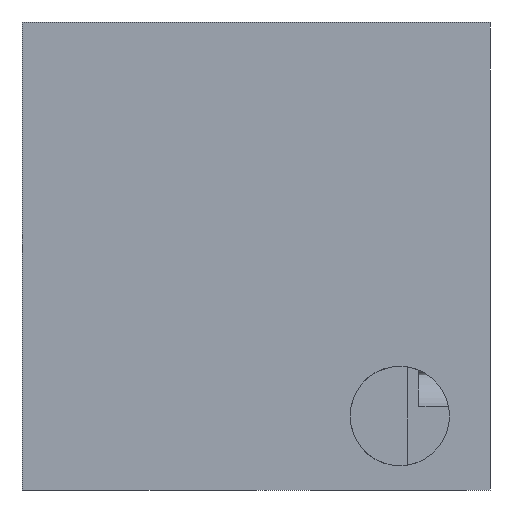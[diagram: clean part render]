
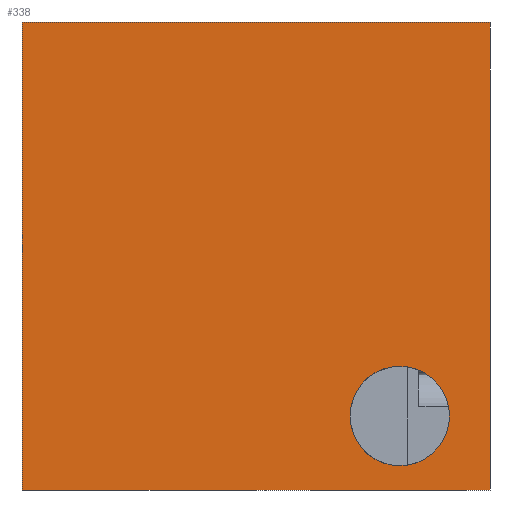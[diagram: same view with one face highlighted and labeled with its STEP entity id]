
A CAD part, left-side view. The second image highlights one B-rep face of the part: STEP entity #338.
In plain terms, the highlighted planar face has unit normal (-1, 0, 0).
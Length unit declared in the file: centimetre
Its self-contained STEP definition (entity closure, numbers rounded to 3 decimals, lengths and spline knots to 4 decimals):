
#22 = CARTESIAN_POINT ( 'NONE',  ( 0., 0., 0. ) ) ;
#44 = FACE_OUTER_BOUND ( 'NONE', #464, .T. ) ;
#58 = LINE ( 'NONE', #451, #248 ) ;
#70 = ORIENTED_EDGE ( 'NONE', *, *, #797, .F. ) ;
#90 = EDGE_CURVE ( 'NONE', #1046, #109, #330, .T. ) ;
#109 = VERTEX_POINT ( 'NONE', #1206 ) ;
#167 = LINE ( 'NONE', #1333, #605 ) ;
#198 = ORIENTED_EDGE ( 'NONE', *, *, #1622, .F. ) ;
#220 = VERTEX_POINT ( 'NONE', #865 ) ;
#248 = VECTOR ( 'NONE', #1460, 100. ) ;
#263 = LINE ( 'NONE', #507, #1648 ) ;
#300 = VERTEX_POINT ( 'NONE', #22 ) ;
#302 = AXIS2_PLACEMENT_3D ( 'NONE', #1080, #453, #1590 ) ;
#330 = CIRCLE ( 'NONE', #302, 106.2472 ) ;
#338 = ADVANCED_FACE ( 'NONE', ( #1543, #44 ), #883, .F. ) ;
#379 = EDGE_CURVE ( 'NONE', #934, #1465, #167, .T. ) ;
#408 = DIRECTION ( 'NONE',  ( 1., 0., 0. ) ) ;
#423 = DIRECTION ( 'NONE',  ( 0., 0., -1. ) ) ;
#432 = CARTESIAN_POINT ( 'NONE',  ( 0., 192.7582, 158.1298 ) ) ;
#451 = CARTESIAN_POINT ( 'NONE',  ( 0., 0., 1000. ) ) ;
#453 = DIRECTION ( 'NONE',  ( -1., 0., 0. ) ) ;
#464 = EDGE_LOOP ( 'NONE', ( #999, #703, #70, #1286 ) ) ;
#507 = CARTESIAN_POINT ( 'NONE',  ( 0., 1000., 0. ) ) ;
#605 = VECTOR ( 'NONE', #423, 100. ) ;
#630 = LINE ( 'NONE', #1281, #1165 ) ;
#648 = EDGE_LOOP ( 'NONE', ( #1380, #198 ) ) ;
#703 = ORIENTED_EDGE ( 'NONE', *, *, #1561, .F. ) ;
#793 = CARTESIAN_POINT ( 'NONE',  ( 0., 1000., 0. ) ) ;
#797 = EDGE_CURVE ( 'NONE', #934, #220, #630, .T. ) ;
#865 = CARTESIAN_POINT ( 'NONE',  ( 0., 0., 1000. ) ) ;
#876 = AXIS2_PLACEMENT_3D ( 'NONE', #432, #1332, #1203 ) ;
#879 = CIRCLE ( 'NONE', #876, 106.2472 ) ;
#883 = PLANE ( 'NONE',  #1002 ) ;
#918 = DIRECTION ( 'NONE',  ( 0., 0., -1. ) ) ;
#934 = VERTEX_POINT ( 'NONE', #1047 ) ;
#999 = ORIENTED_EDGE ( 'NONE', *, *, #1282, .T. ) ;
#1002 = AXIS2_PLACEMENT_3D ( 'NONE', #1554, #408, #918 ) ;
#1046 = VERTEX_POINT ( 'NONE', #1463 ) ;
#1047 = CARTESIAN_POINT ( 'NONE',  ( 0., 1000., 1000. ) ) ;
#1080 = CARTESIAN_POINT ( 'NONE',  ( 0., 192.7582, 158.1298 ) ) ;
#1165 = VECTOR ( 'NONE', #1276, 100. ) ;
#1203 = DIRECTION ( 'NONE',  ( 0., 0., 1. ) ) ;
#1206 = CARTESIAN_POINT ( 'NONE',  ( 0., 192.7582, 51.8826 ) ) ;
#1276 = DIRECTION ( 'NONE',  ( 0., -1., 0. ) ) ;
#1281 = CARTESIAN_POINT ( 'NONE',  ( 0., 1000., 1000. ) ) ;
#1282 = EDGE_CURVE ( 'NONE', #1465, #300, #263, .T. ) ;
#1286 = ORIENTED_EDGE ( 'NONE', *, *, #379, .T. ) ;
#1291 = DIRECTION ( 'NONE',  ( 0., -1., 0. ) ) ;
#1332 = DIRECTION ( 'NONE',  ( -1., 0., 0. ) ) ;
#1333 = CARTESIAN_POINT ( 'NONE',  ( 0., 1000., 1000. ) ) ;
#1380 = ORIENTED_EDGE ( 'NONE', *, *, #90, .F. ) ;
#1460 = DIRECTION ( 'NONE',  ( 0., 0., -1. ) ) ;
#1463 = CARTESIAN_POINT ( 'NONE',  ( 0., 192.7582, 264.3769 ) ) ;
#1465 = VERTEX_POINT ( 'NONE', #793 ) ;
#1543 = FACE_BOUND ( 'NONE', #648, .T. ) ;
#1554 = CARTESIAN_POINT ( 'NONE',  ( 0., 1000., 1000. ) ) ;
#1561 = EDGE_CURVE ( 'NONE', #220, #300, #58, .T. ) ;
#1590 = DIRECTION ( 'NONE',  ( 0., 0., 1. ) ) ;
#1622 = EDGE_CURVE ( 'NONE', #109, #1046, #879, .T. ) ;
#1648 = VECTOR ( 'NONE', #1291, 100. ) ;
